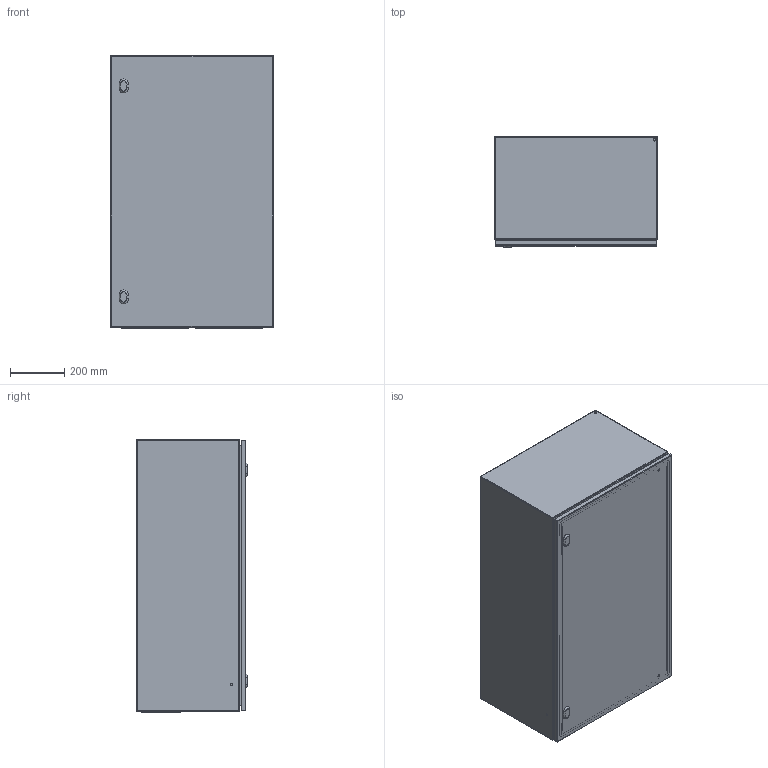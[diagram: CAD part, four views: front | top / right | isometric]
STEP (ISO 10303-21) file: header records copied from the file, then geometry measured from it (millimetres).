
FILE_DESCRIPTION(/* description */ ('STEP AP214'),/* implementation_level */ '2;1');
FILE_NAME(/* name */ 'EC061040-LOD400',/* time_stamp */ '2025-08-01T08:36:15+02:00',/* author */ ('License CC BY-ND 4.0'),/* organization */ ('CADENAS'),/* preprocessor_version */ 'ST-DEVELOPER v19.3',/* originating_system */ 'PARTsolutions',/* authorisation */ ' ');
FILE_SCHEMA (('AUTOMOTIVE_DESIGN {1 0 10303 214 3 1 1}'));
Length unit declared in the file: millimetre
Products named in the file (5): EC061040-LOD400; EC061040-LOD400_cabinet; EC061040-LOD400_door; EC061040-LOD400_bottom_plate; EC061040-LOD400_inner_plate
Assembly tree (5 placements, depth 2):
  EC061040-LOD400
    EC061040-LOD400_cabinet
    EC061040-LOD400_door
    EC061040-LOD400_bottom_plate  x2
    EC061040-LOD400_inner_plate
Bounding box: 600 x 405 x 1004 mm (x, y, z)
Volume: 5601547.2 mm3; surface area: 6404028.2 mm2
Topology: 5 solids, 5 shells, 730 faces, 1792 edges, 1166 vertices
Faces by surface type: cylinder 308, plane 264, torus 80, cone 78
Full cylindrical faces by diameter (mm): 1 x64, 4.5 x86, 5 x4, 5.5 x4, 6 x4, 7 x4, 8 x12, 10 x10, 14 x4
Entity records: 16259 total; most frequent: DIRECTION 2956, CARTESIAN_POINT 2616, ORIENTED_EDGE 2332, AXIS2_PLACEMENT_3D 1218, EDGE_CURVE 1166, EDGE_LOOP 1072, FACE_BOUND 1072, VERTEX_POINT 878
